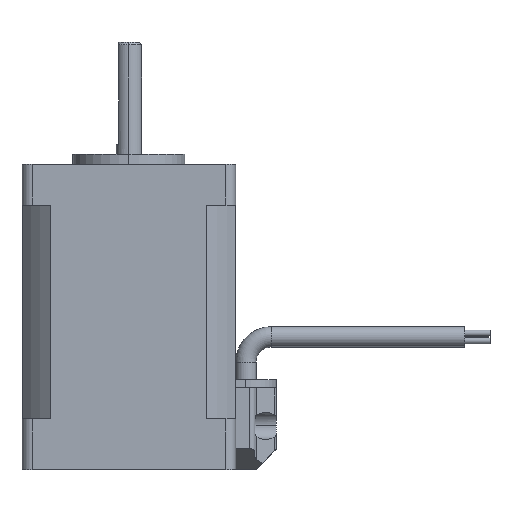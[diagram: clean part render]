
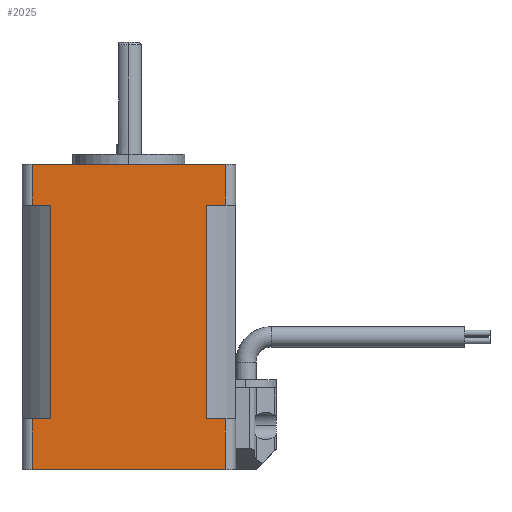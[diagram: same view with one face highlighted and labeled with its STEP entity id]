
A CAD part, left-side view. The second image highlights one B-rep face of the part: STEP entity #2025.
In plain terms, the highlighted planar face has unit normal (-1, 0, 0).
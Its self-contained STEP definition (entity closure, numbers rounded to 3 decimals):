
#59 = LINE ( 'NONE', #3660, #1587 ) ;
#88 = PLANE ( 'NONE',  #1650 ) ;
#94 = CARTESIAN_POINT ( 'NONE',  ( -21., -15.33, 52. ) ) ;
#108 = CARTESIAN_POINT ( 'NONE',  ( -21., 15.33, 10. ) ) ;
#161 = VERTEX_POINT ( 'NONE', #514 ) ;
#268 = VECTOR ( 'NONE', #2124, 1000. ) ;
#274 = DIRECTION ( 'NONE',  ( 0., 1., 0. ) ) ;
#366 = VERTEX_POINT ( 'NONE', #3183 ) ;
#514 = CARTESIAN_POINT ( 'NONE',  ( -21., -19., 10. ) ) ;
#545 = DIRECTION ( 'NONE',  ( 0., 0., -1. ) ) ;
#557 = EDGE_CURVE ( 'NONE', #1543, #781, #3498, .T. ) ;
#565 = ORIENTED_EDGE ( 'NONE', *, *, #1716, .F. ) ;
#572 = DIRECTION ( 'NONE',  ( 0., 0., -1. ) ) ;
#603 = CARTESIAN_POINT ( 'NONE',  ( -21., 19., 10. ) ) ;
#614 = EDGE_CURVE ( 'NONE', #1547, #1768, #2253, .T. ) ;
#719 = VECTOR ( 'NONE', #2663, 1000. ) ;
#737 = VERTEX_POINT ( 'NONE', #1282 ) ;
#748 = VERTEX_POINT ( 'NONE', #2141 ) ;
#781 = VERTEX_POINT ( 'NONE', #3362 ) ;
#836 = CARTESIAN_POINT ( 'NONE',  ( -21., -19., 0. ) ) ;
#850 = ORIENTED_EDGE ( 'NONE', *, *, #876, .F. ) ;
#861 = VERTEX_POINT ( 'NONE', #836 ) ;
#876 = EDGE_CURVE ( 'NONE', #1547, #1543, #2299, .T. ) ;
#1026 = ORIENTED_EDGE ( 'NONE', *, *, #3399, .F. ) ;
#1047 = ORIENTED_EDGE ( 'NONE', *, *, #614, .T. ) ;
#1059 = CARTESIAN_POINT ( 'NONE',  ( -21., 19., 52. ) ) ;
#1061 = EDGE_CURVE ( 'NONE', #1768, #366, #59, .T. ) ;
#1084 = CARTESIAN_POINT ( 'NONE',  ( -21., 19., 60. ) ) ;
#1098 = LINE ( 'NONE', #2577, #2322 ) ;
#1116 = VECTOR ( 'NONE', #2296, 1000. ) ;
#1187 = EDGE_CURVE ( 'NONE', #2889, #781, #2415, .T. ) ;
#1189 = DIRECTION ( 'NONE',  ( 0., -1., 0. ) ) ;
#1269 = LINE ( 'NONE', #3402, #2984 ) ;
#1282 = CARTESIAN_POINT ( 'NONE',  ( -21., -15.33, 10. ) ) ;
#1319 = LINE ( 'NONE', #3008, #268 ) ;
#1332 = DIRECTION ( 'NONE',  ( 0., 1., 0. ) ) ;
#1350 = DIRECTION ( 'NONE',  ( 0., 0., 1. ) ) ;
#1367 = CARTESIAN_POINT ( 'NONE',  ( -21., -19., 60. ) ) ;
#1451 = VECTOR ( 'NONE', #2890, 1000. ) ;
#1462 = CARTESIAN_POINT ( 'NONE',  ( -21., -19., 52. ) ) ;
#1532 = FACE_OUTER_BOUND ( 'NONE', #1800, .T. ) ;
#1543 = VERTEX_POINT ( 'NONE', #2303 ) ;
#1547 = VERTEX_POINT ( 'NONE', #108 ) ;
#1555 = VECTOR ( 'NONE', #1350, 1000. ) ;
#1587 = VECTOR ( 'NONE', #572, 1000. ) ;
#1650 = AXIS2_PLACEMENT_3D ( 'NONE', #2377, #2926, #2644 ) ;
#1716 = EDGE_CURVE ( 'NONE', #161, #861, #2707, .T. ) ;
#1751 = CARTESIAN_POINT ( 'NONE',  ( -21., 19., 52. ) ) ;
#1768 = VERTEX_POINT ( 'NONE', #3644 ) ;
#1800 = EDGE_LOOP ( 'NONE', ( #1026, #2390, #2133, #3560, #2064, #850, #1047, #3126, #3588, #565, #2484, #2786 ) ) ;
#1880 = VECTOR ( 'NONE', #545, 1000. ) ;
#2025 = ADVANCED_FACE ( 'NONE', ( #1532 ), #88, .F. ) ;
#2064 = ORIENTED_EDGE ( 'NONE', *, *, #557, .F. ) ;
#2124 = DIRECTION ( 'NONE',  ( 0., 0., -1. ) ) ;
#2133 = ORIENTED_EDGE ( 'NONE', *, *, #2515, .F. ) ;
#2141 = CARTESIAN_POINT ( 'NONE',  ( -21., -19., 60. ) ) ;
#2253 = LINE ( 'NONE', #603, #1116 ) ;
#2296 = DIRECTION ( 'NONE',  ( 0., 1., 0. ) ) ;
#2299 = LINE ( 'NONE', #3057, #1555 ) ;
#2303 = CARTESIAN_POINT ( 'NONE',  ( -21., 15.33, 52. ) ) ;
#2322 = VECTOR ( 'NONE', #1189, 1000. ) ;
#2363 = CARTESIAN_POINT ( 'NONE',  ( -21., 19., 60. ) ) ;
#2367 = LINE ( 'NONE', #1059, #2629 ) ;
#2369 = EDGE_CURVE ( 'NONE', #366, #861, #2709, .T. ) ;
#2377 = CARTESIAN_POINT ( 'NONE',  ( -21., 19., 60. ) ) ;
#2390 = ORIENTED_EDGE ( 'NONE', *, *, #3419, .F. ) ;
#2415 = LINE ( 'NONE', #2363, #719 ) ;
#2484 = ORIENTED_EDGE ( 'NONE', *, *, #3030, .T. ) ;
#2501 = VERTEX_POINT ( 'NONE', #1462 ) ;
#2515 = EDGE_CURVE ( 'NONE', #2889, #748, #1098, .T. ) ;
#2533 = VERTEX_POINT ( 'NONE', #2855 ) ;
#2577 = CARTESIAN_POINT ( 'NONE',  ( -21., 19., 60. ) ) ;
#2629 = VECTOR ( 'NONE', #1332, 1000. ) ;
#2644 = DIRECTION ( 'NONE',  ( 0., 1., 0. ) ) ;
#2653 = EDGE_CURVE ( 'NONE', #2533, #737, #3303, .T. ) ;
#2663 = DIRECTION ( 'NONE',  ( 0., 0., -1. ) ) ;
#2707 = LINE ( 'NONE', #1367, #1880 ) ;
#2709 = LINE ( 'NONE', #2792, #2976 ) ;
#2786 = ORIENTED_EDGE ( 'NONE', *, *, #2653, .F. ) ;
#2792 = CARTESIAN_POINT ( 'NONE',  ( -21., 19., 0. ) ) ;
#2831 = DIRECTION ( 'NONE',  ( 0., -1., 0. ) ) ;
#2855 = CARTESIAN_POINT ( 'NONE',  ( -21., -15.33, 52. ) ) ;
#2889 = VERTEX_POINT ( 'NONE', #1084 ) ;
#2890 = DIRECTION ( 'NONE',  ( 0., 0., -1. ) ) ;
#2926 = DIRECTION ( 'NONE',  ( 1., 0., 0. ) ) ;
#2976 = VECTOR ( 'NONE', #2831, 1000. ) ;
#2984 = VECTOR ( 'NONE', #274, 1000. ) ;
#3008 = CARTESIAN_POINT ( 'NONE',  ( -21., -19., 60. ) ) ;
#3030 = EDGE_CURVE ( 'NONE', #161, #737, #1269, .T. ) ;
#3057 = CARTESIAN_POINT ( 'NONE',  ( -21., 15.33, 52. ) ) ;
#3126 = ORIENTED_EDGE ( 'NONE', *, *, #1061, .T. ) ;
#3164 = DIRECTION ( 'NONE',  ( 0., 1., 0. ) ) ;
#3183 = CARTESIAN_POINT ( 'NONE',  ( -21., 19., 0. ) ) ;
#3303 = LINE ( 'NONE', #94, #1451 ) ;
#3362 = CARTESIAN_POINT ( 'NONE',  ( -21., 19., 52. ) ) ;
#3399 = EDGE_CURVE ( 'NONE', #2501, #2533, #2367, .T. ) ;
#3402 = CARTESIAN_POINT ( 'NONE',  ( -21., 19., 10. ) ) ;
#3419 = EDGE_CURVE ( 'NONE', #748, #2501, #1319, .T. ) ;
#3498 = LINE ( 'NONE', #1751, #3587 ) ;
#3560 = ORIENTED_EDGE ( 'NONE', *, *, #1187, .T. ) ;
#3587 = VECTOR ( 'NONE', #3164, 1000. ) ;
#3588 = ORIENTED_EDGE ( 'NONE', *, *, #2369, .T. ) ;
#3644 = CARTESIAN_POINT ( 'NONE',  ( -21., 19., 10. ) ) ;
#3660 = CARTESIAN_POINT ( 'NONE',  ( -21., 19., 60. ) ) ;
